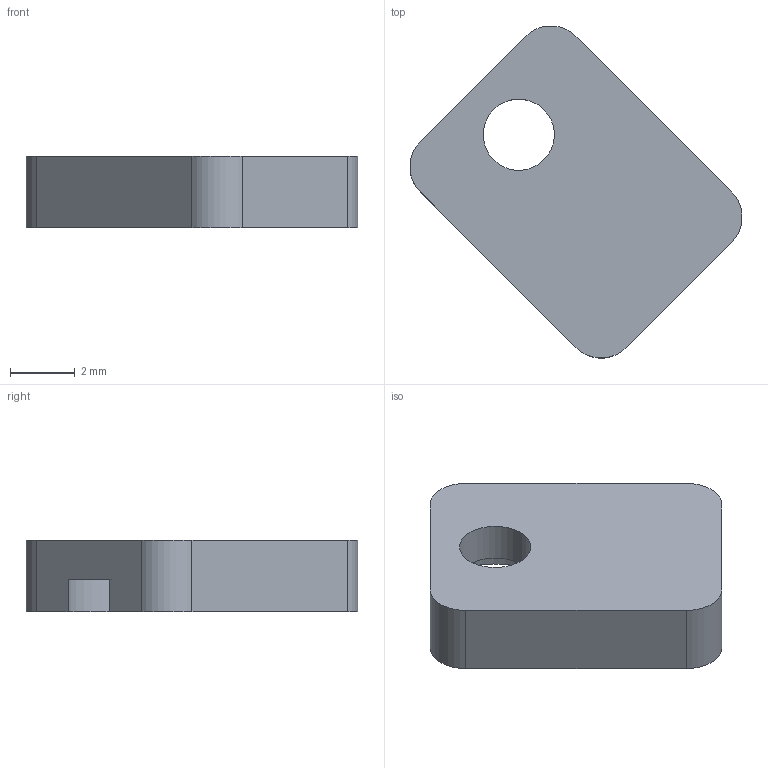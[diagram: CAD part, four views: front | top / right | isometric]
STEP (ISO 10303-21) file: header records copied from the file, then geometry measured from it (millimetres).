
FILE_DESCRIPTION(('Open CASCADE Model'),'2;1');
FILE_NAME('Open CASCADE Shape Model','2026-09-16T15:34:22',('Author'),( 'Open CASCADE'),'Open CASCADE STEP processor 7.7','Open CASCADE 7.7' ,'Unknown');
FILE_SCHEMA(('AUTOMOTIVE_DESIGN { 1 0 10303 214 1 1 1 1 }'));
Length unit declared in the file: millimetre
Products named in the file (1): COMPOUND
Bounding box: 10.25 x 10.25 x 2.2 mm (x, y, z)
Volume: 112.8 mm3; surface area: 196.5 mm2
Topology: 1 solids, 1 shells, 14 faces, 36 edges, 24 vertices
Faces by surface type: plane 7, cylinder 7
Full cylindrical faces by diameter (mm): 2.2 x1
Entity records: 910 total; most frequent: CARTESIAN_POINT 153, DIRECTION 146, LINE 74, VECTOR 74, ORIENTED_EDGE 72, PCURVE 72, DEFINITIONAL_REPRESENTATION 72, EDGE_CURVE 36
